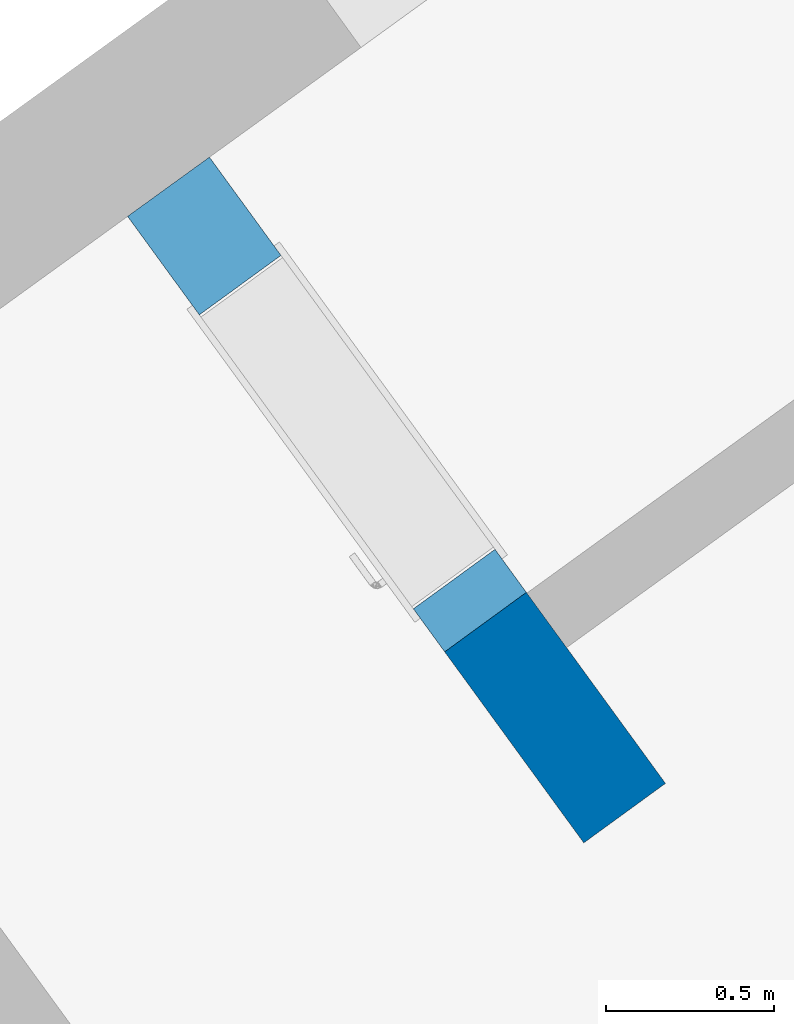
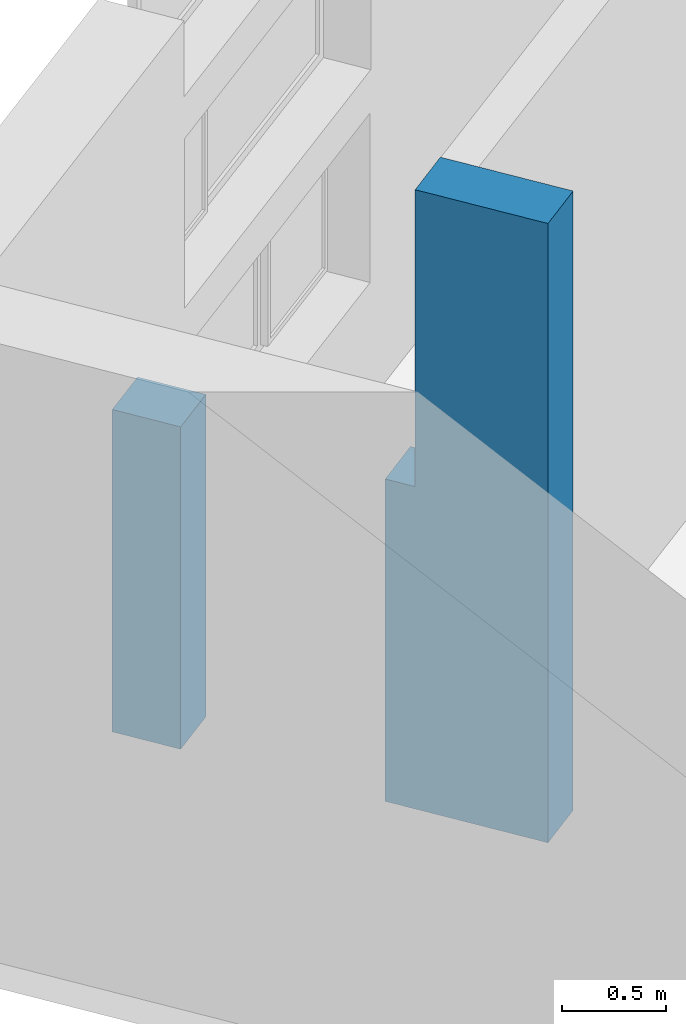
# One storey, part 150 of 157: 1 wall, 1 opening.
"""IFC2X3 building model written with IfcOpenShell, lengths in millimetres."""

import ifcopenshell
import ifcopenshell.guid

model = None  # the IFC model being written
_history = None  # IfcOwnerHistory: only IFC2X3 demands one
_inside = {}  # id of a spatial element -> (the spatial element, [elements in it])
_under = {}  # id of a project, library or spatial element -> (it, [spatial elements below it])
_declared = {}  # id of a project -> (the project, [libraries it declares])
_typed = {}  # id of a type object -> (the type object, [elements of that type])
_made_of = {}  # id of a material, layer set ... -> (it, [elements and type objects made of it])


def new_model(schema):
    """Start an empty IFC model of exactly this schema.

    Asked for "IFC4X3", IfcOpenShell would pick the latest addendum, in which some entities
    have other attributes; the version numbers below select the first issue.
    IFC2X3 requires an IfcOwnerHistory on every rooted entity: one is made here for all.
    """
    global model, _history
    if schema == "IFC4X3":
        model = ifcopenshell.file(schema_version=(4, 3, 0, 0))
    else:
        model = ifcopenshell.file(schema=schema)
    _inside.clear()
    _under.clear()
    _declared.clear()
    _typed.clear()
    _made_of.clear()
    _history = None
    if model.schema == "IFC2X3":
        org = make("IfcOrganization", Name="unknown")
        user = make(
            "IfcPersonAndOrganization",
            ThePerson=make("IfcPerson", FamilyName="unknown"),
            TheOrganization=org,
        )
        app = make(
            "IfcApplication",
            ApplicationDeveloper=org,
            Version="unknown",
            ApplicationFullName="unknown",
            ApplicationIdentifier="unknown",
        )
        _history = make(
            "IfcOwnerHistory",
            OwningUser=user,
            OwningApplication=app,
            ChangeAction="ADDED",
            CreationDate=0,
        )
    return model


def make(cls, **values):
    """One entity of the class cls with the attributes given. An attribute that is None is left unset."""
    return model.create_entity(
        cls, **{name: value for name, value in values.items() if value is not None}
    )


def entity(cls, *values):
    """Any entity or typed value of the class cls, its attributes in the order of the schema. None: left unset."""
    e = model.create_entity(cls)
    for i, value in enumerate(values):
        if value is not None:
            e[i] = value
    return e


def rooted(cls, **values):
    """An entity with a GlobalId (a new one), such as an element, a storey or a relation."""
    return make(cls, GlobalId=ifcopenshell.guid.new(), OwnerHistory=_history, **values)


def si_unit(unit_type, name, prefix=None):
    """IfcSIUnit, for example si_unit("LENGTHUNIT", "METRE", prefix="MILLI")."""
    return make("IfcSIUnit", UnitType=unit_type, Prefix=prefix, Name=name)


def converted_unit(unit_type, name, factor, base, dimensions=None, offset=None):
    """IfcConversionBasedUnit, such as the inch: factor (a typed value) times the base unit."""
    return make(
        "IfcConversionBasedUnit"
        if offset is None
        else "IfcConversionBasedUnitWithOffset",
        ConversionOffset=offset,
        Dimensions=None
        if dimensions is None
        else entity("IfcDimensionalExponents", *dimensions),
        UnitType=unit_type,
        Name=name,
        ConversionFactor=make(
            "IfcMeasureWithUnit", ValueComponent=factor, UnitComponent=base
        ),
    )


def derived_unit(unit_type, elements):
    """IfcDerivedUnit: a product of units, each with its exponent."""
    return make(
        "IfcDerivedUnit",
        Elements=[
            make("IfcDerivedUnitElement", Unit=unit, Exponent=power)
            for unit, power in elements
        ],
        UnitType=unit_type,
    )


def assignment(units):
    """IfcUnitAssignment: the units of a project."""
    return None if units is None else make("IfcUnitAssignment", Units=units)


def point(xyz):
    """IfcCartesianPoint."""
    return None if xyz is None else make("IfcCartesianPoint", Coordinates=xyz)


def direction(xyz):
    """IfcDirection."""
    return None if xyz is None else make("IfcDirection", DirectionRatios=xyz)


def frame(location, z_axis=None, x_axis=None):
    """IfcAxis2Placement3D, a coordinate frame: its origin and axes. An axis left out is left unset."""
    return make(
        "IfcAxis2Placement3D",
        Location=point(location),
        Axis=direction(z_axis),
        RefDirection=direction(x_axis),
    )


def frame_2d(location, x_axis=None):
    """IfcAxis2Placement2D, a coordinate frame in the plane: its origin and x axis."""
    return make(
        "IfcAxis2Placement2D", Location=point(location), RefDirection=direction(x_axis)
    )


def origin():
    """The frame at (0, 0, 0) with its axes left unset."""
    return frame((0.0, 0.0, 0.0))


def place(relative_to, where):
    """IfcLocalPlacement: puts the frame where relative to a parent placement (None: the world)."""
    return make(
        "IfcLocalPlacement", PlacementRelTo=relative_to, RelativePlacement=where
    )


def context(
    kind, dimensions, precision=None, world=None, true_north=None, identifier=None
):
    """IfcGeometricRepresentationContext, for example the 3D "Model" context."""
    return make(
        "IfcGeometricRepresentationContext",
        ContextIdentifier=identifier,
        ContextType=kind,
        CoordinateSpaceDimension=dimensions,
        Precision=precision,
        WorldCoordinateSystem=world,
        TrueNorth=true_north,
    )


def subcontext(parent, identifier, kind, view, scale=None):
    """IfcGeometricRepresentationSubContext, for example "Body" below "Model"."""
    return make(
        "IfcGeometricRepresentationSubContext",
        ContextIdentifier=identifier,
        ContextType=kind,
        ParentContext=parent,
        TargetScale=scale,
        TargetView=view,
    )


def project(units=None, contexts=None):
    """IfcProject with its units and contexts."""
    return rooted(
        "IfcProject",
        Name="project",
        RepresentationContexts=contexts,
        UnitsInContext=assignment(units),
    )


def spatial(cls, under=None, at=None, **own):
    """A site, building, storey or space (cls), placed at a placement, below another one or the project."""
    s = rooted(cls, ObjectPlacement=at, **own)
    if under is not None:
        _under.setdefault(under.id(), (under, []))[1].append(s)
    return s


def profile(cls, at=None, kind="AREA", **sizes):
    """A parametric profile (cls). Its sizes go by their IFC names, for example OverallWidth=200.0."""
    return make(cls, ProfileType=kind, Position=at, **sizes)


def rectangle(**sizes):
    """IfcRectangleProfileDef."""
    return profile("IfcRectangleProfileDef", **sizes)


def extrude(swept, where, along, depth):
    """IfcExtrudedAreaSolid: the profile swept, set in the frame where, extruded along a direction by depth."""
    return make(
        "IfcExtrudedAreaSolid",
        SweptArea=swept,
        Position=where,
        ExtrudedDirection=direction(along),
        Depth=depth,
    )


def faces_of(points, faces, orient=None, outer=None):
    """IfcFace entities. A face is a list of loops; a loop is a list of indices into points, from 0.

    orient and outer hold one flag for each loop. By default every Orientation is true, the
    first loop of a face is its IfcFaceOuterBound and the others are IfcFaceBound.
    """
    made = []
    for i, loops in enumerate(faces):
        bounds = []
        for j, loop in enumerate(loops):
            is_outer = j == 0 if outer is None else outer[i][j]
            bounds.append(
                make(
                    "IfcFaceOuterBound" if is_outer else "IfcFaceBound",
                    Bound=make("IfcPolyLoop", Polygon=[points[k] for k in loop]),
                    Orientation=True if orient is None else orient[i][j],
                )
            )
        made.append(make("IfcFace", Bounds=bounds))
    return made


def faceted_brep(points, faces, orient=None, outer=None, voids=None):
    """IfcFacetedBrep: a solid bounded by flat faces; with voids (closed shells), ...WithVoids."""
    shared = [point(p) for p in points]
    hull = make("IfcClosedShell", CfsFaces=faces_of(shared, faces, orient, outer))
    if voids is None:
        return make("IfcFacetedBrep", Outer=hull)
    return make(
        "IfcFacetedBrepWithVoids",
        Outer=hull,
        Voids=[
            make(cls, CfsFaces=faces_of(shared, fs, o, b)) for cls, fs, o, b in voids
        ],
    )


def shape(context_of_items, identifier, shape_type, items):
    """IfcShapeRepresentation: the items that make up one representation, for example the "Body"."""
    return make(
        "IfcShapeRepresentation",
        ContextOfItems=context_of_items,
        RepresentationIdentifier=identifier,
        RepresentationType=shape_type,
        Items=items,
    )


def material(Name=None, Category=None):
    """IfcMaterial."""
    return make("IfcMaterial", Name=Name, Category=Category)


def layer(
    of_material, thickness, ventilated=None, Name=None, Category=None, Priority=None
):
    """IfcMaterialLayer: one layer of a wall or slab, of a material (None: an air gap)."""
    return make(
        "IfcMaterialLayer",
        Material=of_material,
        LayerThickness=thickness,
        IsVentilated=ventilated,
        Name=Name,
        Category=Category,
        Priority=Priority,
    )


def layer_set(layers, Name=None):
    """IfcMaterialLayerSet."""
    return make("IfcMaterialLayerSet", MaterialLayers=layers, LayerSetName=Name)


def made_of(thing, what):
    """Note that an element or type object is made of a material, layer set ...; save() writes the relation."""
    if what is not None:
        _made_of.setdefault(what.id(), (what, []))[1].append(thing)
    return thing


def type_object(cls, material=None, **own):
    """A type object (cls), such as IfcWallType, which elements share."""
    return made_of(rooted(cls, **own), material)


def element(
    cls,
    number,
    at=None,
    inside=None,
    cuts=None,
    type_object=None,
    material=None,
    context=None,
    identifier="Body",
    shape_type=None,
    held_by="IfcProductDefinitionShape",
    body=None,
    shapes=None,
    **own,
):
    """One element of the class cls, such as IfcWall. Its Tag is "e" and its number.

    at: its placement. inside: the storey or other place that contains it. cuts: it is an
    opening in that element (IfcRelVoidsElement). A single representation is given by context,
    identifier, shape_type and body (its items); several are given by shapes. held_by: the class
    of the entity that holds the representations. save() writes the other relations.
    """
    e = rooted(cls, Tag="e%d" % number, ObjectPlacement=at, **own)
    if body is not None:
        shapes = [shape(context, identifier, shape_type, body)]
    if shapes is not None:
        e.Representation = make(held_by, Representations=shapes)
    if inside is not None:
        _inside.setdefault(inside.id(), (inside, []))[1].append(e)
    if cuts is not None:
        rooted(
            "IfcRelVoidsElement", RelatingBuildingElement=cuts, RelatedOpeningElement=e
        )
    if type_object is not None:
        _typed.setdefault(type_object.id(), (type_object, []))[1].append(e)
    return made_of(e, material)


def aggregate(whole, parts):
    """IfcRelAggregates: a whole, such as a stair, and the parts it consists of."""
    return rooted("IfcRelAggregates", RelatingObject=whole, RelatedObjects=parts)


def save(model, path):
    """Write the relations noted so far, then the file.

    IfcRelAggregates (storeys below a building ...), IfcRelContainedInSpatialStructure (elements
    in a storey), IfcRelDefinesByType, IfcRelAssociatesMaterial and IfcRelDeclares: one each for
    every whole, place, type object, material and project.
    """
    for whole, parts in _under.values():
        aggregate(whole, parts)
    for where, things in _inside.values():
        rooted(
            "IfcRelContainedInSpatialStructure",
            RelatedElements=things,
            RelatingStructure=where,
        )
    for kind, things in _typed.values():
        rooted("IfcRelDefinesByType", RelatedObjects=things, RelatingType=kind)
    for what, things in _made_of.values():
        rooted("IfcRelAssociatesMaterial", RelatedObjects=things, RelatingMaterial=what)
    for by, libraries in _declared.values():
        rooted("IfcRelDeclares", RelatingContext=by, RelatedDefinitions=libraries)
    model.write(path)


model = new_model("IFC2X3")

# Units and contexts
model_context = context("Model", 3, precision=0.01, world=origin(), true_north=direction((6.123031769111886e-17, 1.0)))
body_context = subcontext(model_context, "Body", "Model", "MODEL_VIEW")
ifc_project = project(units=[si_unit("LENGTHUNIT", "METRE", prefix="MILLI"), si_unit("AREAUNIT", "SQUARE_METRE"), si_unit("VOLUMEUNIT", "CUBIC_METRE"), converted_unit("PLANEANGLEUNIT", "DEGREE", entity("IfcRatioMeasure", 0.017453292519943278), si_unit("PLANEANGLEUNIT", "RADIAN"), dimensions=[0, 0, 0, 0, 0, 0, 0]), si_unit("MASSUNIT", "GRAM", prefix="KILO"), derived_unit("MASSDENSITYUNIT", [(si_unit("MASSUNIT", "GRAM", prefix="KILO"), 1), (si_unit("LENGTHUNIT", "METRE"), -3)]), derived_unit("MOMENTOFINERTIAUNIT", [(si_unit("LENGTHUNIT", "METRE"), 4)]), si_unit("TIMEUNIT", "SECOND"), si_unit("FREQUENCYUNIT", "HERTZ"), si_unit("THERMODYNAMICTEMPERATUREUNIT", "DEGREE_CELSIUS"), derived_unit("THERMALTRANSMITTANCEUNIT", [(si_unit("MASSUNIT", "GRAM", prefix="KILO"), 1), (si_unit("THERMODYNAMICTEMPERATUREUNIT", "KELVIN"), -1), (si_unit("TIMEUNIT", "SECOND"), -3)]), derived_unit("THERMALCONDUCTANCEUNIT", [(si_unit("MASSUNIT", "GRAM", prefix="KILO"), 1), (si_unit("LENGTHUNIT", "METRE"), 1), (si_unit("THERMODYNAMICTEMPERATUREUNIT", "KELVIN"), -1), (si_unit("TIMEUNIT", "SECOND"), -3)]), derived_unit("VOLUMETRICFLOWRATEUNIT", [(si_unit("LENGTHUNIT", "METRE"), 3), (si_unit("TIMEUNIT", "SECOND"), -1)]), derived_unit("MASSFLOWRATEUNIT", [(si_unit("MASSUNIT", "GRAM", prefix="KILO"), 1), (si_unit("TIMEUNIT", "SECOND"), -1)]), derived_unit("ROTATIONALFREQUENCYUNIT", [(si_unit("TIMEUNIT", "SECOND"), -1)]), si_unit("ELECTRICCURRENTUNIT", "AMPERE"), si_unit("ELECTRICVOLTAGEUNIT", "VOLT"), si_unit("POWERUNIT", "WATT"), converted_unit("FORCEUNIT", "KIP", entity("IfcRatioMeasure", 2.088543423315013e-05), si_unit("FORCEUNIT", "NEWTON"), dimensions=[1, 1, -2, 0, 0, 0, 0]), si_unit("ILLUMINANCEUNIT", "LUX"), si_unit("LUMINOUSFLUXUNIT", "LUMEN"), si_unit("LUMINOUSINTENSITYUNIT", "CANDELA"), derived_unit("USERDEFINED", [(si_unit("MASSUNIT", "GRAM", prefix="KILO"), -1), (si_unit("LENGTHUNIT", "METRE"), -2), (si_unit("TIMEUNIT", "SECOND"), 3), (si_unit("LUMINOUSFLUXUNIT", "LUMEN"), 1)]), derived_unit("USERDEFINED", [(si_unit("MASSUNIT", "GRAM", prefix="KILO"), 1), (si_unit("LENGTHUNIT", "METRE"), 3), (si_unit("TIMEUNIT", "SECOND"), -3), (si_unit("ELECTRICCURRENTUNIT", "AMPERE"), -2)]), derived_unit("USERDEFINED", [(si_unit("LENGTHUNIT", "METRE"), 2), (si_unit("TIMEUNIT", "SECOND"), -2)]), derived_unit("SOUNDPOWERUNIT", [(si_unit("MASSUNIT", "GRAM", prefix="KILO"), 1), (si_unit("LENGTHUNIT", "METRE"), 2), (si_unit("TIMEUNIT", "SECOND"), -3)]), derived_unit("SOUNDPRESSUREUNIT", [(si_unit("MASSUNIT", "GRAM", prefix="KILO"), 1), (si_unit("LENGTHUNIT", "METRE"), -1), (si_unit("TIMEUNIT", "SECOND"), -2)]), derived_unit("LINEARVELOCITYUNIT", [(si_unit("LENGTHUNIT", "METRE"), 1), (si_unit("TIMEUNIT", "SECOND"), -1)]), si_unit("PRESSUREUNIT", "PASCAL"), derived_unit("USERDEFINED", [(si_unit("LENGTHUNIT", "METRE"), -2), (si_unit("MASSUNIT", "GRAM", prefix="KILO"), 1), (si_unit("TIMEUNIT", "SECOND"), -2)]), derived_unit("LINEARFORCEUNIT", [(si_unit("MASSUNIT", "GRAM", prefix="KILO"), 1), (si_unit("LENGTHUNIT", "METRE"), 1), (si_unit("TIMEUNIT", "SECOND"), -2), (si_unit("LENGTHUNIT", "METRE"), -1)]), derived_unit("PLANARFORCEUNIT", [(si_unit("MASSUNIT", "GRAM", prefix="KILO"), 1), (si_unit("LENGTHUNIT", "METRE"), 1), (si_unit("TIMEUNIT", "SECOND"), -2), (si_unit("LENGTHUNIT", "METRE"), -2)]), derived_unit("SPECIFICHEATCAPACITYUNIT", [(si_unit("LENGTHUNIT", "METRE"), 2), (si_unit("TIMEUNIT", "SECOND"), -2), (si_unit("THERMODYNAMICTEMPERATUREUNIT", "KELVIN"), -1)]), derived_unit("VAPORPERMEABILITYUNIT", [(si_unit("TIMEUNIT", "SECOND"), 1), (si_unit("LENGTHUNIT", "METRE"), -1)]), derived_unit("DYNAMICVISCOSITYUNIT", [(si_unit("MASSUNIT", "GRAM", prefix="KILO"), 1), (si_unit("LENGTHUNIT", "METRE"), -1), (si_unit("TIMEUNIT", "SECOND"), -1)]), derived_unit("THERMALEXPANSIONCOEFFICIENTUNIT", [(si_unit("THERMODYNAMICTEMPERATUREUNIT", "KELVIN"), -1)])], contexts=[model_context])

# Site, building, storey
site_placement = place(None, frame((0.0, 0.0, 0.0), z_axis=(0.0, 0.0, 1.0), x_axis=(0.8191520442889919, 0.5735764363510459, 0.0)))
site = spatial("IfcSite", under=ifc_project, at=site_placement, Name="Default", CompositionType="ELEMENT")
building_placement = place(site_placement, origin())
building = spatial("IfcBuilding", under=site, at=building_placement, CompositionType="ELEMENT")
storey_placement = place(building_placement, origin())
storey = spatial("IfcBuildingStorey", under=building, at=storey_placement, Name="1.EG +0.00", CompositionType="ELEMENT", Elevation=-4.331468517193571e-12)

# Wall, opening
ifc_material = material(Name="Analytical Wall Surface_CJC")
ifc_layer = layer(ifc_material, 300.0)
ifc_layer_set = layer_set([ifc_layer], Name="Basic Wall:Wand_Innen_30")
wall_type = type_object("IfcWallType", Name="Basic Wall:Wand_Innen_30", PredefinedType="STANDARD", material=ifc_layer_set)
wall_placement = place(storey_placement, frame((-189535.32117879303, 197650.01683474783, -1150.0), z_axis=(0.0, 0.0, 1.0), x_axis=(0.018539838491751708, -0.9998281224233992, 0.0)))
wall = element("IfcWall", 1, at=wall_placement, inside=storey, type_object=wall_type, Name="Basic Wall:Wand_Innen_30", ObjectType="Basic Wall:Wand_Innen_30", context=body_context, shape_type="Brep", body=[
    faceted_brep([(0.0, -150.0, 1900.0), (0.0, -150.0, 0.0), (362.01992364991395, -150.0, 0.0), (362.01992364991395, -150.0, 1900.0), (0.9263575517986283, 150.0, 1900.0), (0.9263575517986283, 150.0, 0.0), (362.01992364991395, 150.0, 0.0), (362.01992364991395, 150.0, 1900.0)], [[[0, 1, 2, 3]], [[1, 0, 4, 5]], [[3, 2, 6, 7]], [[1, 5, 6, 2]], [[4, 0, 3, 7]], [[5, 4, 7, 6]]]),
    faceted_brep([(2302.0199236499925, 150.0, 3650.0), (2302.0199236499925, 150.0, 0.0), (1802.943897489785, 150.0, 0.0), (1602.9429440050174, 150.0, 0.0), (1442.0199236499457, 150.0, 0.0), (1442.0199236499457, 150.0, 1900.0), (1600.163871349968, 150.0, 1900.0), (1600.163871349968, 150.0, 3650.0), (1602.9429440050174, 150.0, 3650.0), (1802.943897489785, 150.0, 3650.0), (1442.0199236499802, -150.0, 0.0), (1442.0199236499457, -150.0, 1900.0), (2302.0199236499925, -150.0, 3650.0), (2302.0199236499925, -150.0, 0.0), (1600.163871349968, -150.0, 3650.0), (1600.163871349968, -150.0, 1900.0)], [[[0, 1, 2, 3, 4, 5, 6, 7, 8, 9]], [[10, 11, 5, 4]], [[12, 13, 1, 0]], [[14, 12, 0, 9, 8, 7]], [[15, 14, 7, 6]], [[15, 6, 5, 11]], [[1, 13, 10, 4, 3, 2]], [[13, 12, 14, 15, 11, 10]]]),
])
opening_placement = place(wall_placement, frame((1442.0199236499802, 150.0, 0.0)))
element("IfcOpeningElement", 2, at=opening_placement, cuts=wall, Name="Doors_IntSgl:100x190:1", ObjectType="Opening", context=body_context, shape_type="SweptSolid", body=[
    extrude(rectangle(XDim=1900.0000000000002, YDim=1079.9999999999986, at=frame_2d((950.0000000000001, 539.9999999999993), x_axis=(1.0, 0.0))), frame((0.0, 0.0, 0.0), z_axis=(0.0, -1.0, 0.0), x_axis=(0.0, 0.0, 1.0)), (0.0, 0.0, 1.0), 300.0),
])

save(model, "model.ifc")
